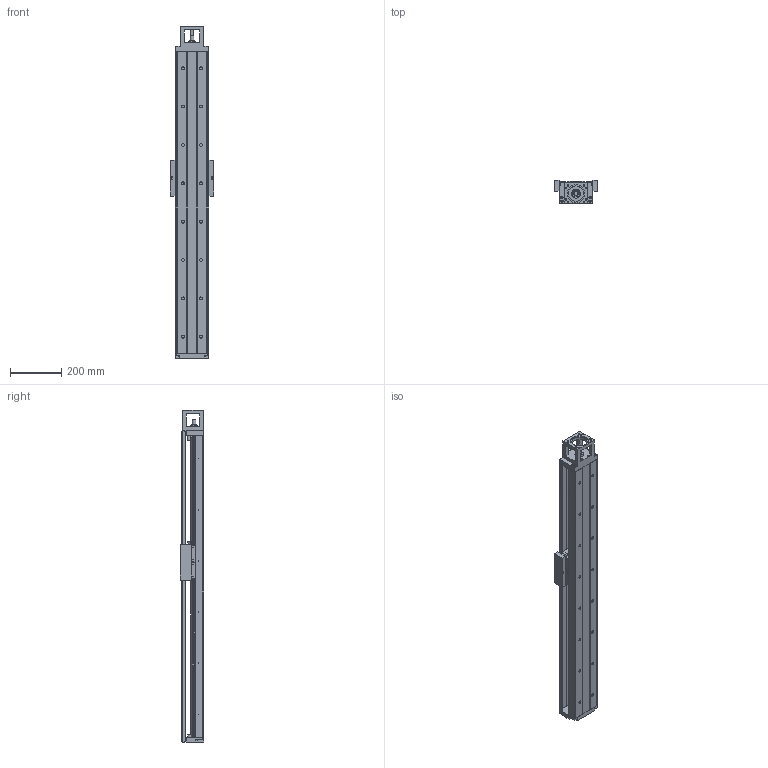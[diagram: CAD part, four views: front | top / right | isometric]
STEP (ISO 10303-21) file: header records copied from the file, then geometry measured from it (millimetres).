
FILE_DESCRIPTION(/* description */ (''),/* implementation_level */ '2;1');
FILE_NAME(/* name */ 'TKK130-1180A1F0C.stp',/* time_stamp */ '2016-12-22T10:22:53+08:00',/* author */ (''),/* organization */ (''),/* preprocessor_version */ 'ST-DEVELOPER v15',/* originating_system */ 'SIEMENS PLM Software NX 8.5',/* authorisation */ '');
FILE_SCHEMA (('AUTOMOTIVE_DESIGN { 1 0 10303 214 3 1 1 1 }'));
Length unit declared in the file: millimetre
Products named in the file (3): 022; 011; TKK130-1180A1F0C
Assembly tree (2 placements, depth 2):
  TKK130-1180A1F0C
    011
    022
Bounding box: 170 x 92 x 1298 mm (x, y, z)
Volume: 5856591.7 mm3; surface area: 1241497.1 mm2
Topology: 2 solids, 48 shells, 1141 faces, 3050 edges, 1994 vertices
Faces by surface type: plane 624, cylinder 344, cone 133, extrusion 33, bspline 6, torus 1
Full cylindrical faces by diameter (mm): 2.1 x12, 2.5 x8, 3.3 x62, 4.5 x20, 5 x23, 6.6 x10, 6.8 x12, 7 x2, 8 x16, 8.5 x4, 9 x8, 11 x24, 12 x4, 15 x1, 16.3 x1, 17 x18, 17.5 x4, 25 x1, 35 x2, 40 x3, 60.03 x1, 70.03 x1
Entity records: 33895 total; most frequent: CARTESIAN_POINT 7331, DIRECTION 5180, ORIENTED_EDGE 4774, EDGE_CURVE 2387, AXIS2_PLACEMENT_3D 1859, VERTEX_POINT 1806, EDGE_LOOP 1615, VECTOR 1462
